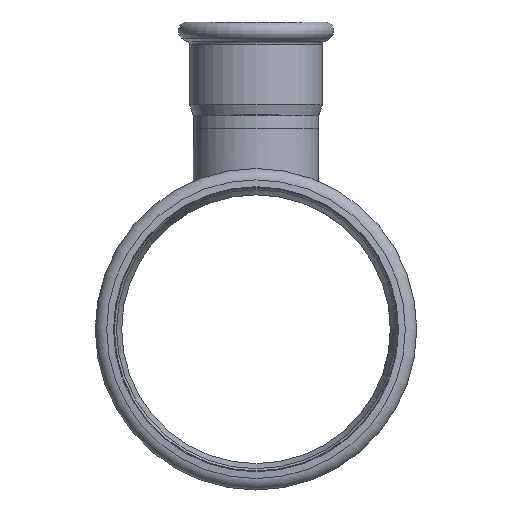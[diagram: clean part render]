
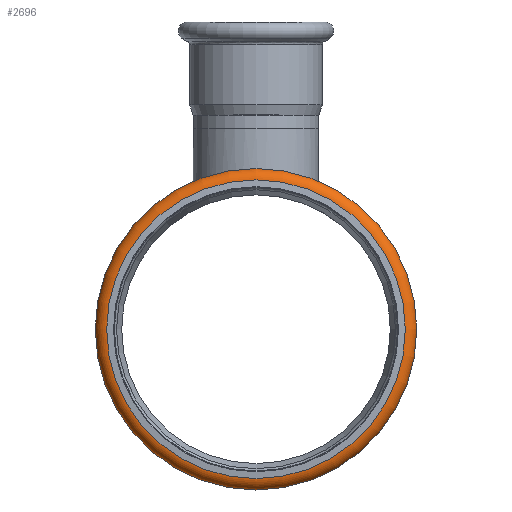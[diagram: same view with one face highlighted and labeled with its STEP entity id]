
A CAD part, left-side view. The second image highlights one B-rep face of the part: STEP entity #2696.
In plain terms, the highlighted toroidal (fillet/blend) face has major radius 90 mm and minor radius 7.6 mm.
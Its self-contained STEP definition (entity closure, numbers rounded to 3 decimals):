
#2669=CARTESIAN_POINT('',(-140.067,0.0,0.0));
#2670=DIRECTION('',(1.0,0.0,0.0));
#2671=DIRECTION('',(0.0,0.0,-1.0));
#2672=AXIS2_PLACEMENT_3D('',#2669,#2670,#2671);
#2673=TOROIDAL_SURFACE('',#2672,90.0,7.6);
#2674=CARTESIAN_POINT('',(-134.245,94.885,0.0));
#2675=VERTEX_POINT('',#2674);
#2676=CARTESIAN_POINT('',(-134.245,0.0,0.0));
#2677=DIRECTION('',(1.0,0.0,0.0));
#2678=DIRECTION('',(0.0,1.0,0.0));
#2679=AXIS2_PLACEMENT_3D('',#2676,#2677,#2678);
#2680=CIRCLE('',#2679,94.885);
#2681=EDGE_CURVE('',#2675,#2675,#2680,.T.);
#2682=ORIENTED_EDGE('',*,*,#2681,.F.);
#2683=EDGE_LOOP('',(#2682));
#2684=FACE_OUTER_BOUND('',#2683,.T.);
#2685=CARTESIAN_POINT('',(-147.638,90.662,0.0));
#2686=VERTEX_POINT('',#2685);
#2687=CARTESIAN_POINT('',(-147.638,0.0,0.0));
#2688=DIRECTION('',(1.0,0.0,0.0));
#2689=DIRECTION('',(0.0,1.0,0.0));
#2690=AXIS2_PLACEMENT_3D('',#2687,#2688,#2689);
#2691=CIRCLE('',#2690,90.662);
#2692=EDGE_CURVE('',#2686,#2686,#2691,.T.);
#2693=ORIENTED_EDGE('',*,*,#2692,.T.);
#2694=EDGE_LOOP('',(#2693));
#2695=FACE_BOUND('',#2694,.T.);
#2696=ADVANCED_FACE('',(#2684,#2695),#2673,.T.);
